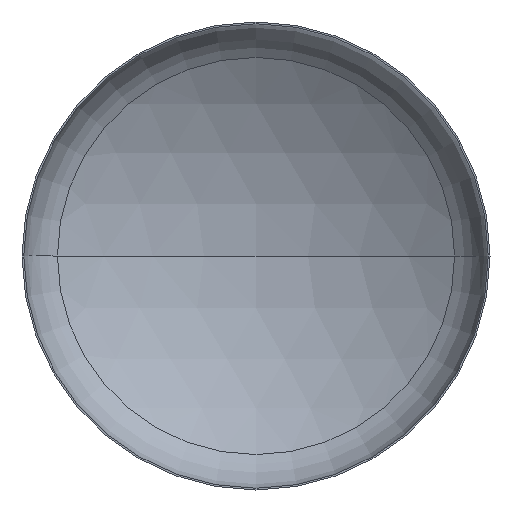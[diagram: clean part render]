
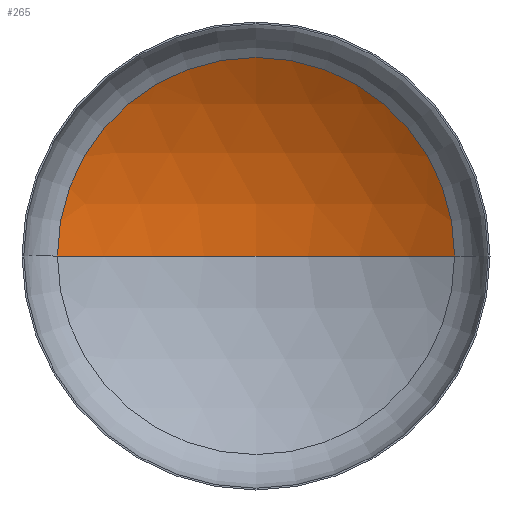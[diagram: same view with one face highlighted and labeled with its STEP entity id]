
A CAD part, front view. The second image highlights one B-rep face of the part: STEP entity #265.
In plain terms, the highlighted spherical face has radius 2560 mm.
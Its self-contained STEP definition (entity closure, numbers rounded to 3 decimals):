
#12 = ORIENTED_EDGE ( 'NONE', *, *, #373, .T. ) ;
#16 = VERTEX_POINT ( 'NONE', #287 ) ;
#41 = AXIS2_PLACEMENT_3D ( 'NONE', #132, #110, #135 ) ;
#42 = VERTEX_POINT ( 'NONE', #238 ) ;
#51 = AXIS2_PLACEMENT_3D ( 'NONE', #386, #58, #220 ) ;
#58 = DIRECTION ( 'NONE',  ( 0., 0., -1. ) ) ;
#102 = EDGE_LOOP ( 'NONE', ( #371, #12, #104 ) ) ;
#104 = ORIENTED_EDGE ( 'NONE', *, *, #180, .T. ) ;
#110 = DIRECTION ( 'NONE',  ( 0., 0., 1. ) ) ;
#112 = AXIS2_PLACEMENT_3D ( 'NONE', #218, #255, #242 ) ;
#123 = AXIS2_PLACEMENT_3D ( 'NONE', #221, #365, #388 ) ;
#132 = CARTESIAN_POINT ( 'NONE',  ( 0., -1714.792, 0. ) ) ;
#135 = DIRECTION ( 'NONE',  ( 1., 0., 0. ) ) ;
#180 = EDGE_CURVE ( 'NONE', #185, #42, #275, .T. ) ;
#185 = VERTEX_POINT ( 'NONE', #215 ) ;
#197 = FACE_OUTER_BOUND ( 'NONE', #102, .T. ) ;
#215 = CARTESIAN_POINT ( 'NONE',  ( 1357.913, 455.386, 0. ) ) ;
#218 = CARTESIAN_POINT ( 'NONE',  ( 0., -1714.792, 0. ) ) ;
#220 = DIRECTION ( 'NONE',  ( -1., 0., 0. ) ) ;
#221 = CARTESIAN_POINT ( 'NONE',  ( 0., 455.386, 0. ) ) ;
#238 = CARTESIAN_POINT ( 'NONE',  ( -1357.913, 455.386, 0. ) ) ;
#242 = DIRECTION ( 'NONE',  ( -1., 0., 0. ) ) ;
#255 = DIRECTION ( 'NONE',  ( 0., 0., -1. ) ) ;
#265 = ADVANCED_FACE ( 'NONE', ( #197 ), #387, .F. ) ;
#275 = CIRCLE ( 'NONE', #123, 1357.913 ) ;
#287 = CARTESIAN_POINT ( 'NONE',  ( 0., 845.208, 0. ) ) ;
#365 = DIRECTION ( 'NONE',  ( 0., -1., 0. ) ) ;
#366 = CIRCLE ( 'NONE', #51, 2560. ) ;
#371 = ORIENTED_EDGE ( 'NONE', *, *, #374, .F. ) ;
#373 = EDGE_CURVE ( 'NONE', #16, #185, #366, .T. ) ;
#374 = EDGE_CURVE ( 'NONE', #16, #42, #411, .T. ) ;
#386 = CARTESIAN_POINT ( 'NONE',  ( 0., -1714.792, 0. ) ) ;
#387 = SPHERICAL_SURFACE ( 'NONE', #112, 2560. ) ;
#388 = DIRECTION ( 'NONE',  ( 1., 0., 0. ) ) ;
#411 = CIRCLE ( 'NONE', #41, 2560. ) ;
